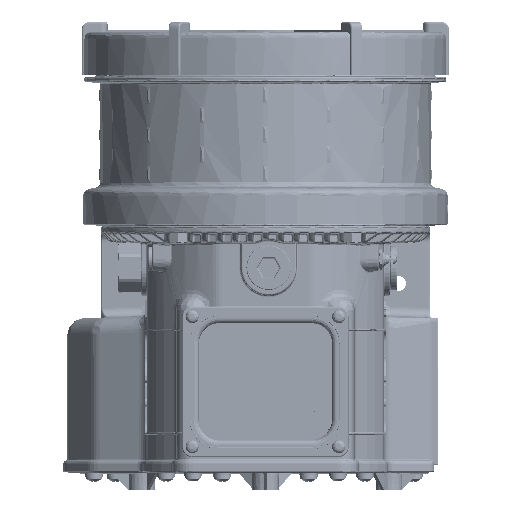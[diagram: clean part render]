
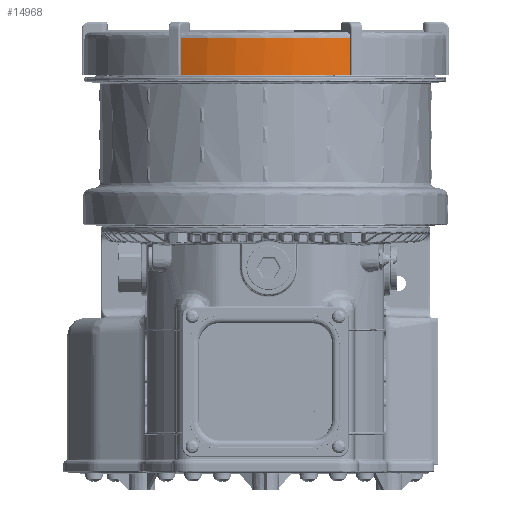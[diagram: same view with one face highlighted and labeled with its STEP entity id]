
A CAD part, top view. The second image highlights one B-rep face of the part: STEP entity #14968.
In plain terms, the highlighted cylindrical face has radius 110 mm (diameter 220 mm), a partial arc.
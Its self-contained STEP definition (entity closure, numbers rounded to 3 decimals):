
#14968 = ADVANCED_FACE ( 'NONE', ( #310156 ), #490922, .T. ) ;
#22065 = CARTESIAN_POINT ( 'NONE',  ( 4.466, 185., 110. ) ) ;
#27914 = CARTESIAN_POINT ( 'NONE',  ( -8.932, 185., 109.728 ) ) ;
#32055 = DIRECTION ( 'NONE',  ( 0., 0., 1. ) ) ;
#81292 = VECTOR ( 'NONE', #114561, 1000. ) ;
#110355 = EDGE_CURVE ( 'NONE', #452965, #281032, #520202, .T. ) ;
#113850 = CARTESIAN_POINT ( 'NONE',  ( 8.932, 185., 109.728 ) ) ;
#114561 = DIRECTION ( 'NONE',  ( 0., -1., 0. ) ) ;
#116732 = CARTESIAN_POINT ( 'NONE',  ( 43.479, 185., 101.141 ) ) ;
#131709 = AXIS2_PLACEMENT_3D ( 'NONE', #417815, #512526, #423652 ) ;
#137669 = VERTEX_POINT ( 'NONE', #516970 ) ;
#155303 = CARTESIAN_POINT ( 'NONE',  ( -30.868, 185., 105.675 ) ) ;
#186279 = EDGE_CURVE ( 'NONE', #432829, #137669, #537948, .T. ) ;
#208487 = CARTESIAN_POINT ( 'NONE',  ( 30.868, 185., 105.675 ) ) ;
#209449 = CARTESIAN_POINT ( 'NONE',  ( -51.5, 207., 97.2 ) ) ;
#223081 = CARTESIAN_POINT ( 'NONE',  ( 51.5, 185., 97.2 ) ) ;
#234442 = CARTESIAN_POINT ( 'NONE',  ( 51.5, 185., 97.2 ) ) ;
#237837 = B_SPLINE_CURVE_WITH_KNOTS ( 'NONE', 3,
 ( #528233, #563943, #258756, #433561, #155303, #386143, #383222, #27914, #335833, #22065, #113850, #475032, #341678, #208487, #522381, #116732, #525309, #223081 ),
 .UNSPECIFIED., .F., .F.,
 ( 4, 2, 2, 2, 2, 2, 2, 2, 4 ),
 ( 0., 0.125, 0.25, 0.375, 0.5, 0.625, 0.75, 0.875, 1. ),
 .UNSPECIFIED. ) ;
#239922 = ORIENTED_EDGE ( 'NONE', *, *, #110355, .F. ) ;
#258756 = CARTESIAN_POINT ( 'NONE',  ( -43.479, 185., 101.141 ) ) ;
#270743 = EDGE_CURVE ( 'NONE', #137669, #281032, #237837, .T. ) ;
#280844 = EDGE_LOOP ( 'NONE', ( #239922, #466105, #583655, #404599 ) ) ;
#281032 = VERTEX_POINT ( 'NONE', #234442 ) ;
#287609 = EDGE_CURVE ( 'NONE', #452965, #432829, #358646, .T. ) ;
#310156 = FACE_OUTER_BOUND ( 'NONE', #280844, .T. ) ;
#335833 = CARTESIAN_POINT ( 'NONE',  ( -4.466, 185., 110. ) ) ;
#341666 = VECTOR ( 'NONE', #449137, 1000. ) ;
#341678 = CARTESIAN_POINT ( 'NONE',  ( 22.199, 185., 107.829 ) ) ;
#358646 = CIRCLE ( 'NONE', #131709, 110. ) ;
#383222 = CARTESIAN_POINT ( 'NONE',  ( -17.799, 185., 108.642 ) ) ;
#386143 = CARTESIAN_POINT ( 'NONE',  ( -22.199, 185., 107.829 ) ) ;
#389789 = CARTESIAN_POINT ( 'NONE',  ( 51.5, 211., 97.2 ) ) ;
#404599 = ORIENTED_EDGE ( 'NONE', *, *, #270743, .T. ) ;
#404857 = CARTESIAN_POINT ( 'NONE',  ( 51.5, 207., 97.2 ) ) ;
#417815 = CARTESIAN_POINT ( 'NONE',  ( 0., 207., 0. ) ) ;
#423652 = DIRECTION ( 'NONE',  ( 0., 0., 1. ) ) ;
#432829 = VERTEX_POINT ( 'NONE', #209449 ) ;
#433561 = CARTESIAN_POINT ( 'NONE',  ( -35.136, 185., 104.333 ) ) ;
#446222 = CARTESIAN_POINT ( 'NONE',  ( -51.5, 185., 97.2 ) ) ;
#449137 = DIRECTION ( 'NONE',  ( 0., -1., 0. ) ) ;
#452965 = VERTEX_POINT ( 'NONE', #404857 ) ;
#466105 = ORIENTED_EDGE ( 'NONE', *, *, #287609, .T. ) ;
#475032 = CARTESIAN_POINT ( 'NONE',  ( 17.799, 185., 108.642 ) ) ;
#486964 = AXIS2_PLACEMENT_3D ( 'NONE', #576824, #523605, #32055 ) ;
#490922 = CYLINDRICAL_SURFACE ( 'NONE', #486964, 110. ) ;
#512526 = DIRECTION ( 'NONE',  ( 0., -1., 0. ) ) ;
#516970 = CARTESIAN_POINT ( 'NONE',  ( -51.5, 185., 97.2 ) ) ;
#520202 = LINE ( 'NONE', #389789, #81292 ) ;
#522381 = CARTESIAN_POINT ( 'NONE',  ( 35.136, 185., 104.333 ) ) ;
#523605 = DIRECTION ( 'NONE',  ( 0., 1., 0. ) ) ;
#525309 = CARTESIAN_POINT ( 'NONE',  ( 47.553, 185., 99.291 ) ) ;
#528233 = CARTESIAN_POINT ( 'NONE',  ( -51.5, 185., 97.2 ) ) ;
#537948 = LINE ( 'NONE', #446222, #341666 ) ;
#563943 = CARTESIAN_POINT ( 'NONE',  ( -47.553, 185., 99.291 ) ) ;
#576824 = CARTESIAN_POINT ( 'NONE',  ( 0., 185., 0. ) ) ;
#583655 = ORIENTED_EDGE ( 'NONE', *, *, #186279, .T. ) ;
